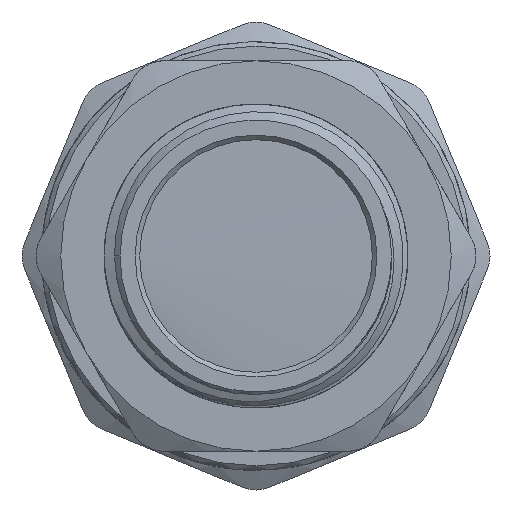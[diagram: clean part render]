
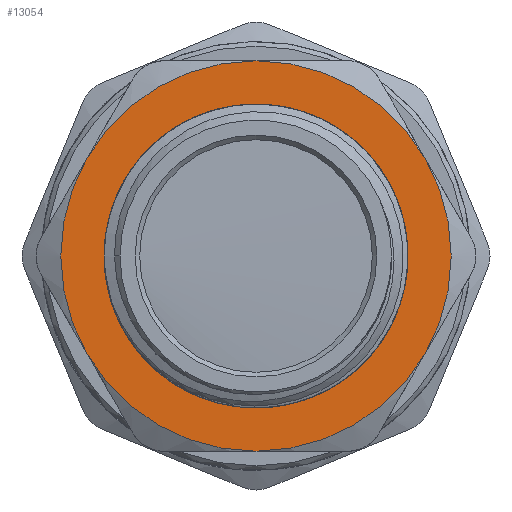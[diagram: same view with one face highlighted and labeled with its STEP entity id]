
A CAD part, left-side view. The second image highlights one B-rep face of the part: STEP entity #13054.
In plain terms, the highlighted planar face has unit normal (-1, 0, 0).
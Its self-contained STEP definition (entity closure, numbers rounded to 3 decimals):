
#240=PLANE('',#13536);
#655=CIRCLE('',#13150,16.65);
#656=CIRCLE('',#13151,16.65);
#758=CIRCLE('',#13492,21.4);
#759=CIRCLE('',#13494,21.4);
#760=CIRCLE('',#13496,21.4);
#761=CIRCLE('',#13498,21.4);
#762=CIRCLE('',#13500,21.4);
#781=CIRCLE('',#13535,21.4);
#1004=FACE_BOUND('',#2402,.T.);
#1653=FACE_OUTER_BOUND('',#2401,.T.);
#2401=EDGE_LOOP('',(#11876,#11877,#11878,#11879,#11880,#11881));
#2402=EDGE_LOOP('',(#11882,#11883));
#4954=VERTEX_POINT('',#16198);
#4955=VERTEX_POINT('',#16200);
#6084=VERTEX_POINT('',#31650);
#6092=VERTEX_POINT('',#31698);
#6106=VERTEX_POINT('',#31779);
#6115=VERTEX_POINT('',#31831);
#6122=VERTEX_POINT('',#31878);
#6124=VERTEX_POINT('',#31893);
#6315=EDGE_CURVE('',#4954,#4955,#655,.T.);
#6316=EDGE_CURVE('',#4955,#4954,#656,.T.);
#8057=EDGE_CURVE('',#6124,#6106,#758,.T.);
#8058=EDGE_CURVE('',#6106,#6092,#759,.T.);
#8059=EDGE_CURVE('',#6115,#6124,#760,.T.);
#8060=EDGE_CURVE('',#6092,#6084,#761,.T.);
#8061=EDGE_CURVE('',#6122,#6115,#762,.T.);
#8088=EDGE_CURVE('',#6084,#6122,#781,.T.);
#11876=ORIENTED_EDGE('',*,*,#8059,.T.);
#11877=ORIENTED_EDGE('',*,*,#8057,.T.);
#11878=ORIENTED_EDGE('',*,*,#8058,.T.);
#11879=ORIENTED_EDGE('',*,*,#8060,.T.);
#11880=ORIENTED_EDGE('',*,*,#8088,.T.);
#11881=ORIENTED_EDGE('',*,*,#8061,.T.);
#11882=ORIENTED_EDGE('',*,*,#6316,.F.);
#11883=ORIENTED_EDGE('',*,*,#6315,.F.);
#13054=ADVANCED_FACE('',(#1653,#1004),#240,.T.);
#13150=AXIS2_PLACEMENT_3D('',#16201,#13809,#13810);
#13151=AXIS2_PLACEMENT_3D('',#16202,#13811,#13812);
#13492=AXIS2_PLACEMENT_3D('',#31911,#15240,#15241);
#13494=AXIS2_PLACEMENT_3D('',#31913,#15244,#15245);
#13496=AXIS2_PLACEMENT_3D('',#31915,#15248,#15249);
#13498=AXIS2_PLACEMENT_3D('',#31917,#15252,#15253);
#13500=AXIS2_PLACEMENT_3D('',#31919,#15256,#15257);
#13535=AXIS2_PLACEMENT_3D('',#31977,#15334,#15335);
#13536=AXIS2_PLACEMENT_3D('',#31978,#15336,#15337);
#13809=DIRECTION('center_axis',(-1.,0.,0.));
#13810=DIRECTION('ref_axis',(0.,0.,1.));
#13811=DIRECTION('center_axis',(-1.,0.,0.));
#13812=DIRECTION('ref_axis',(0.,0.,1.));
#15240=DIRECTION('center_axis',(-1.,0.,0.));
#15241=DIRECTION('ref_axis',(0.,0.,1.));
#15244=DIRECTION('center_axis',(-1.,0.,0.));
#15245=DIRECTION('ref_axis',(0.,0.,1.));
#15248=DIRECTION('center_axis',(-1.,0.,0.));
#15249=DIRECTION('ref_axis',(0.,0.,1.));
#15252=DIRECTION('center_axis',(-1.,0.,0.));
#15253=DIRECTION('ref_axis',(0.,0.,1.));
#15256=DIRECTION('center_axis',(-1.,0.,0.));
#15257=DIRECTION('ref_axis',(0.,0.,1.));
#15334=DIRECTION('center_axis',(-1.,0.,0.));
#15335=DIRECTION('ref_axis',(0.,0.,1.));
#15336=DIRECTION('center_axis',(-1.,0.,0.));
#15337=DIRECTION('ref_axis',(0.,0.,1.));
#16198=CARTESIAN_POINT('',(-11.,16.65,0.));
#16200=CARTESIAN_POINT('',(-11.,-16.65,0.));
#16201=CARTESIAN_POINT('Origin',(-11.,0.,0.));
#16202=CARTESIAN_POINT('Origin',(-11.,0.,0.));
#31650=CARTESIAN_POINT('',(-11.,18.533,-10.7));
#31698=CARTESIAN_POINT('',(-11.,18.533,10.7));
#31779=CARTESIAN_POINT('',(-11.,0.,21.4));
#31831=CARTESIAN_POINT('',(-11.,-18.533,-10.7));
#31878=CARTESIAN_POINT('',(-11.,0.,-21.4));
#31893=CARTESIAN_POINT('',(-11.,-18.533,10.7));
#31911=CARTESIAN_POINT('Origin',(-11.,0.,0.));
#31913=CARTESIAN_POINT('Origin',(-11.,0.,0.));
#31915=CARTESIAN_POINT('Origin',(-11.,0.,0.));
#31917=CARTESIAN_POINT('Origin',(-11.,0.,0.));
#31919=CARTESIAN_POINT('Origin',(-11.,0.,0.));
#31977=CARTESIAN_POINT('Origin',(-11.,0.,0.));
#31978=CARTESIAN_POINT('Origin',(-11.,-16.65,0.));
